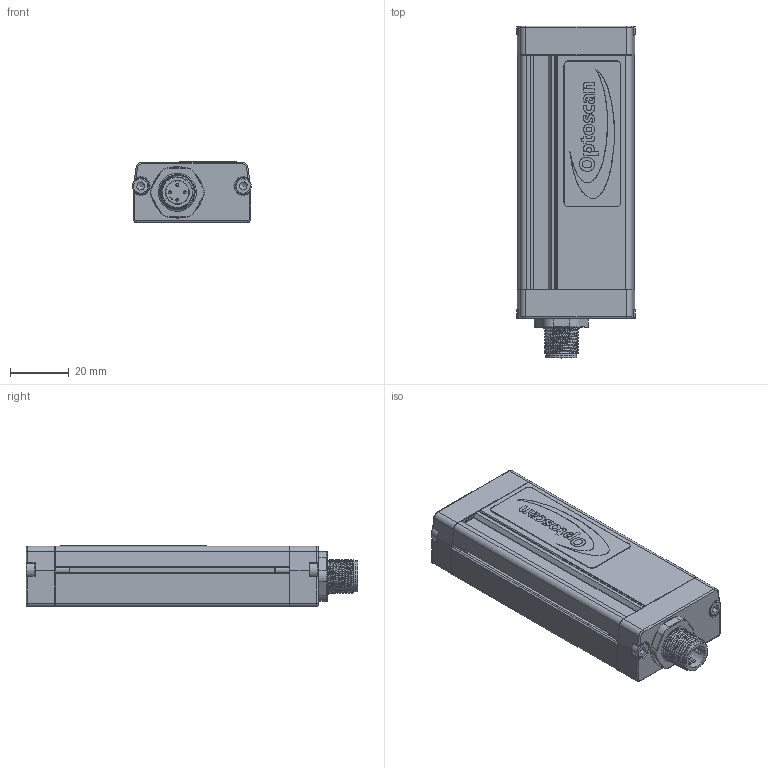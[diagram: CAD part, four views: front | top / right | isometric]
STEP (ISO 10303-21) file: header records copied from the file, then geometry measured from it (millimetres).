
FILE_DESCRIPTION(/* description */ (''),/* implementation_level */ '2;1');
FILE_NAME(/* name */ 'C:\Users\andre\SynologyDrive\Optoscan\Libreria Componenti\00 - Barriere\Argo (AR_AR-H)\Risoluzioni 01-02-04\40-60-80\Argo_80_TX.stp',/* time_stamp */ '2021-04-21T17:26:39+02:00',/* author */ ('andre'),/* organization */ (''),/* preprocessor_version */ 'ST-DEVELOPER v18',/* originating_system */ 'Autodesk Inventor 2020',/* authorisation */ '');
FILE_SCHEMA (('AUTOMOTIVE_DESIGN { 1 0 10303 214 3 1 1 }'));
Length unit declared in the file: millimetre
Products named in the file (1): Argo_80_TX
Bounding box: 40.5 x 113.3 x 20.75 mm (x, y, z)
Volume: 27107.5 mm3; surface area: 29789.3 mm2
Topology: 1 solids, 1 shells, 696 faces, 1911 edges, 1225 vertices
Faces by surface type: plane 321, cylinder 195, bspline 94, torus 72, cone 8, sphere 6
Full cylindrical faces by diameter (mm): 1 x4, 2.459 x4, 2.5 x4, 3 x4, 3.5 x4, 5.5 x4, 8 x1, 10.5 x2, 11.75 x9, 15.7 x1, 17.5 x1
Entity records: 30770 total; most frequent: CARTESIAN_POINT 12670, ORIENTED_EDGE 3806, DIRECTION 3415, EDGE_CURVE 1903, VERTEX_POINT 1225, AXIS2_PLACEMENT_3D 1193, LINE 1029, VECTOR 1029
